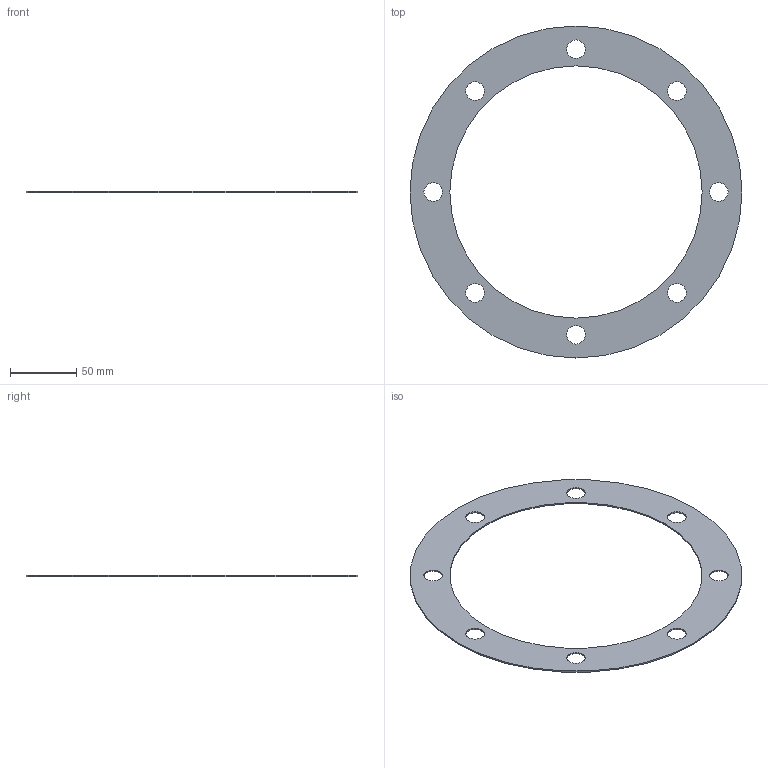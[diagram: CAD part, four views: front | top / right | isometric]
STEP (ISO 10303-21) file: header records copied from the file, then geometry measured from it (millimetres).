
FILE_DESCRIPTION (( 'STEP AP203' ), '1' );
FILE_NAME ('GL250.STEP', '2015-09-11T11:51:36', ( '' ), ( '' ), 'SwSTEP 2.0', 'SolidWorks 2015', '' );
FILE_SCHEMA (( 'CONFIG_CONTROL_DESIGN' ));
Length unit declared in the file: millimetre
Products named in the file (1): GL250
Bounding box: 250 x 250 x 1 mm (x, y, z)
Volume: 19503 mm3; surface area: 40740.2 mm2
Topology: 1 solids, 1 shells, 22 faces, 60 edges, 40 vertices
Faces by surface type: cylinder 20, plane 2
Entity records: 837 total; most frequent: DIRECTION 146, CARTESIAN_POINT 123, ORIENTED_EDGE 120, AXIS2_PLACEMENT_3D 63, EDGE_CURVE 60, VERTEX_POINT 40, EDGE_LOOP 40, CIRCLE 40
